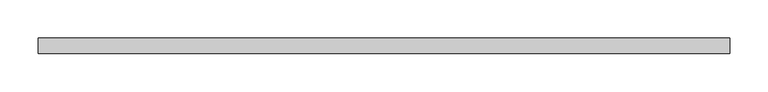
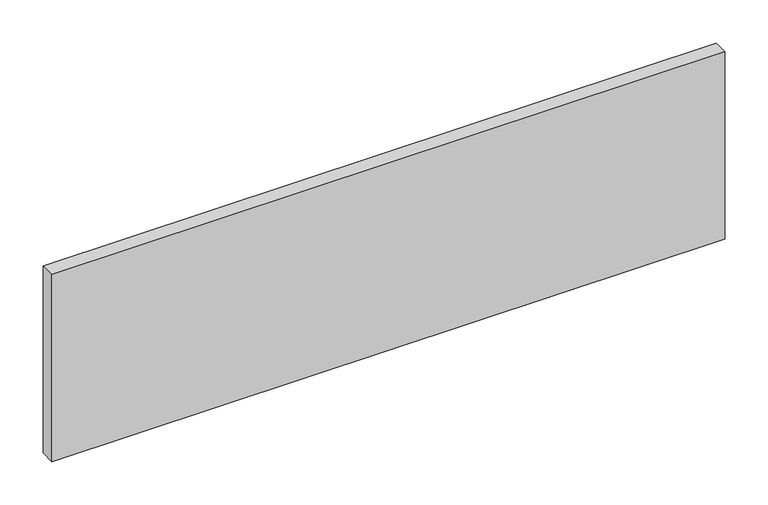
"""IFC4 building model written with IfcOpenShell, lengths in millimetres: proxy geometry, GM_Панель фасадная : Тип 1."""

from ifc_helpers import new_model, si_unit, origin, origin_with_axes, place, context, project, spatial, polyline, outline, extrude, source, transform, mapped, element, save


def generic_models_25d82840(model_context):
    return source(origin(), model_context, "Body", "SweptSolid", [
        extrude(outline(polyline([(-775.0, 125.0), (125.0, 125.0), (125.0, 105.0), (-775.0, 105.0), (-775.0, 125.0)])), origin_with_axes(), (0.0, 0.0, 1.0), 265.0),
    ])


if __name__ == "__main__":
    model = new_model("IFC4")
    model_context = context("Model", 3, world=origin())
    ifc_project = project(units=[si_unit("LENGTHUNIT", "METRE", prefix="MILLI")], contexts=[model_context])
    site = spatial("IfcSite", under=ifc_project)
    building = spatial("IfcBuilding", under=site)
    placement = place(None, origin())
    generic_models_shape = generic_models_25d82840(model_context)
    element("IfcBuildingElementProxy", 1, Name="GM_Панель фасадная : Тип 1", ObjectType="GM_Панель фасадная : Тип 1", at=placement, inside=building, context=model_context, shape_type="MappedRepresentation", body=[
        mapped(generic_models_shape, transform((0.0, 0.0, 0.0), x_axis=(1.0, 0.0, 0.0), y_axis=(0.0, 1.0, 0.0), z_axis=(0.0, 0.0, 1.0))),
    ])
    save(model, "model.ifc")
